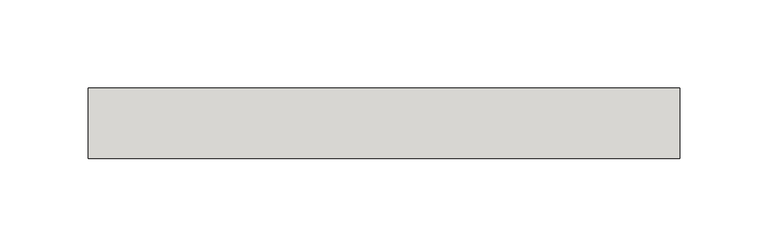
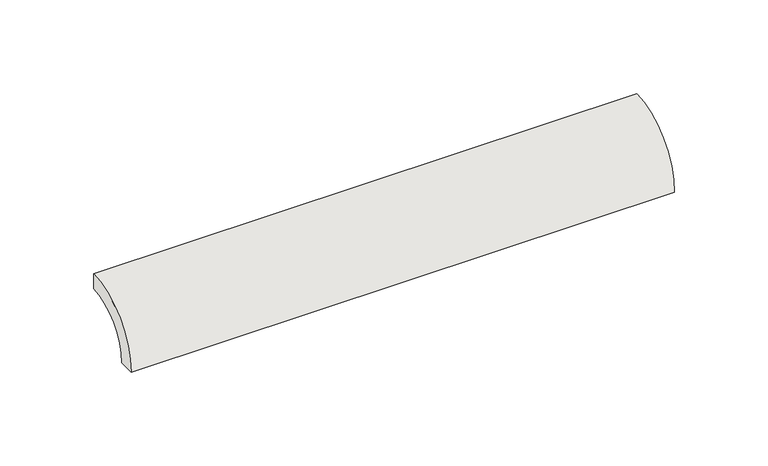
"""IFC4 building model written with IfcOpenShell, lengths in millimetres: slab geometry, ROSA GRES_138 : Pieza 138_Aqua_Marino_Anti-Slip."""

from ifc_helpers import new_model, si_unit, point, frame, frame_2d, origin, origin_2d, place, context, project, spatial, polyline, circle_curve, trimmed, segment, composite_curve, outline, extrude, source, transform, mapped, element, save


def slab_127b54b0(model_context):
    return source(origin(), model_context, "Body", "SweptSolid", [
        extrude(outline(composite_curve([segment(polyline([(0.0, 40.0), (0.0, 30.0265886)]), True, "CONTINUOUS"), segment(trimmed(circle_curve(frame_2d((-0.0044453, 0.0044453)), 30.0221435), [point((0.0, 30.0265886))], [point((-30.0265886, 0.0))], True, "CARTESIAN"), True, "CONTINUOUS"), segment(polyline([(-30.0265886, 0.0), (-40.0, 0.0)]), True, "CONTINUOUS"), segment(trimmed(circle_curve(origin_2d(), 40.0), [point((-40.0, 0.0))], [point((0.0, 40.0))], False, "CARTESIAN"), True, "CONTINUOUS")], self_intersect=False)), frame((0.0, 0.0, 0.0), z_axis=(1.0, 0.0, 0.0), x_axis=(0.0, 1.0, 0.0)), (0.0, 0.0, 1.0), 335.0265886),
    ])


if __name__ == "__main__":
    model = new_model("IFC4")
    model_context = context("Model", 3, world=origin())
    ifc_project = project(units=[si_unit("LENGTHUNIT", "METRE", prefix="MILLI")], contexts=[model_context])
    site = spatial("IfcSite", under=ifc_project)
    building = spatial("IfcBuilding", under=site)
    placement = place(None, origin())
    slab_shape = slab_127b54b0(model_context)
    element("IfcSlab", 1, ObjectType="ROSA GRES_138 : Pieza 138_Aqua_Marino_Anti-Slip", at=placement, inside=building, context=model_context, shape_type="MappedRepresentation", body=[
        mapped(slab_shape, transform((0.0, 0.0, 0.0), x_axis=(1.0, 0.0, 0.0), y_axis=(0.0, 1.0, 0.0), z_axis=(0.0, 0.0, 1.0))),
    ])
    save(model, "model.ifc")
